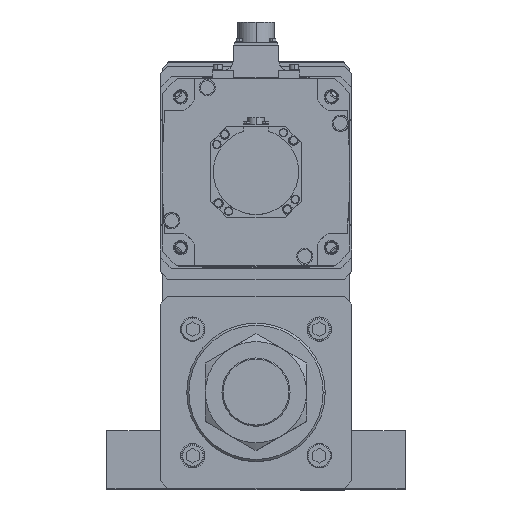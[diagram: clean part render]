
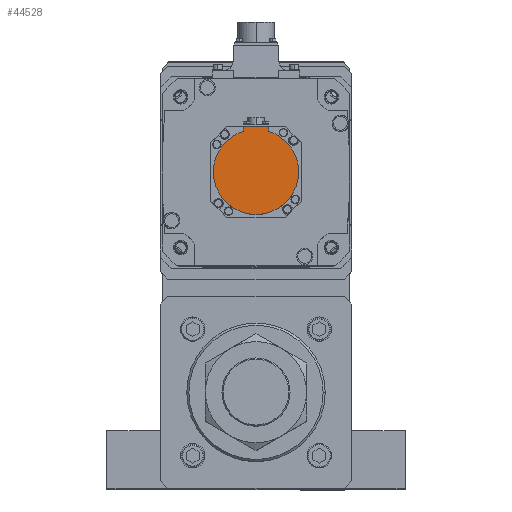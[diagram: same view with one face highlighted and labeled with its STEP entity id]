
A CAD part, top view. The second image highlights one B-rep face of the part: STEP entity #44528.
In plain terms, the highlighted planar face has unit normal (0, 0, 1) as drawn and (0, 0, -1) by its records, which use the part's own axes.
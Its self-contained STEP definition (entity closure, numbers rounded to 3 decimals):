
#655 = DIRECTION ( 'NONE',  ( 0., 0., 1. ) ) ;
#4204 = CARTESIAN_POINT ( 'NONE',  ( 12., -42.5, -178.5 ) ) ;
#4893 = ORIENTED_EDGE ( 'NONE', *, *, #47971, .F. ) ;
#4947 = VECTOR ( 'NONE', #6033, 1000. ) ;
#4972 = VERTEX_POINT ( 'NONE', #33147 ) ;
#5723 = DIRECTION ( 'NONE',  ( 0., 1., 0. ) ) ;
#6033 = DIRECTION ( 'NONE',  ( 0., 1., 0. ) ) ;
#6517 = EDGE_CURVE ( 'NONE', #28166, #18236, #46826, .T. ) ;
#8344 = VECTOR ( 'NONE', #5723, 1000. ) ;
#9969 = CARTESIAN_POINT ( 'NONE',  ( 12., -1.249, -178.5 ) ) ;
#10676 = ORIENTED_EDGE ( 'NONE', *, *, #48595, .F. ) ;
#11017 = VERTEX_POINT ( 'NONE', #23575 ) ;
#11557 = CARTESIAN_POINT ( 'NONE',  ( 0., 0., -178.5 ) ) ;
#14142 = CARTESIAN_POINT ( 'NONE',  ( -12., -40.329, -178.5 ) ) ;
#15841 = LINE ( 'NONE', #9969, #4947 ) ;
#16242 = DIRECTION ( 'NONE',  ( -1., 0., 0. ) ) ;
#18236 = VERTEX_POINT ( 'NONE', #34334 ) ;
#23575 = CARTESIAN_POINT ( 'NONE',  ( 12., -38.158, -178.5 ) ) ;
#23590 = DIRECTION ( 'NONE',  ( 0., 0., 1. ) ) ;
#24266 = EDGE_LOOP ( 'NONE', ( #31500, #35835, #10676, #38373, #4893, #36140 ) ) ;
#24853 = CIRCLE ( 'NONE', #42351, 40. ) ;
#26048 = CIRCLE ( 'NONE', #51441, 40. ) ;
#27340 = EDGE_CURVE ( 'NONE', #34917, #28166, #51073, .T. ) ;
#28166 = VERTEX_POINT ( 'NONE', #45378 ) ;
#29533 = CARTESIAN_POINT ( 'NONE',  ( 0., 0., -178.5 ) ) ;
#31500 = ORIENTED_EDGE ( 'NONE', *, *, #6517, .T. ) ;
#32561 = DIRECTION ( 'NONE',  ( 1., 0., 0. ) ) ;
#33147 = CARTESIAN_POINT ( 'NONE',  ( 40., 0., -178.5 ) ) ;
#33731 = VERTEX_POINT ( 'NONE', #51802 ) ;
#34334 = CARTESIAN_POINT ( 'NONE',  ( -12., -38.158, -178.5 ) ) ;
#34527 = EDGE_CURVE ( 'NONE', #11017, #4972, #24853, .T. ) ;
#34796 = AXIS2_PLACEMENT_3D ( 'NONE', #42028, #49887, #37726 ) ;
#34917 = VERTEX_POINT ( 'NONE', #4204 ) ;
#35162 = EDGE_CURVE ( 'NONE', #33731, #18236, #41483, .T. ) ;
#35835 = ORIENTED_EDGE ( 'NONE', *, *, #35162, .F. ) ;
#36140 = ORIENTED_EDGE ( 'NONE', *, *, #27340, .T. ) ;
#36547 = AXIS2_PLACEMENT_3D ( 'NONE', #37415, #48886, #32561 ) ;
#36654 = DIRECTION ( 'NONE',  ( 1., 0., 0. ) ) ;
#37415 = CARTESIAN_POINT ( 'NONE',  ( 0., -1.249, -178.5 ) ) ;
#37726 = DIRECTION ( 'NONE',  ( 1., 0., 0. ) ) ;
#38373 = ORIENTED_EDGE ( 'NONE', *, *, #34527, .F. ) ;
#40826 = CARTESIAN_POINT ( 'NONE',  ( 0., -42.5, -178.5 ) ) ;
#41483 = CIRCLE ( 'NONE', #34796, 40. ) ;
#42028 = CARTESIAN_POINT ( 'NONE',  ( 0., 0., -178.5 ) ) ;
#42351 = AXIS2_PLACEMENT_3D ( 'NONE', #29533, #655, #49957 ) ;
#43984 = VECTOR ( 'NONE', #16242, 1000. ) ;
#44528 = ADVANCED_FACE ( 'NONE', ( #50185 ), #45305, .F. ) ;
#45305 = PLANE ( 'NONE',  #36547 ) ;
#45378 = CARTESIAN_POINT ( 'NONE',  ( -12., -42.5, -178.5 ) ) ;
#46826 = LINE ( 'NONE', #14142, #8344 ) ;
#47971 = EDGE_CURVE ( 'NONE', #34917, #11017, #15841, .T. ) ;
#48595 = EDGE_CURVE ( 'NONE', #4972, #33731, #26048, .T. ) ;
#48886 = DIRECTION ( 'NONE',  ( 0., 0., 1. ) ) ;
#49887 = DIRECTION ( 'NONE',  ( 0., 0., 1. ) ) ;
#49957 = DIRECTION ( 'NONE',  ( 1., 0., 0. ) ) ;
#50185 = FACE_OUTER_BOUND ( 'NONE', #24266, .T. ) ;
#51073 = LINE ( 'NONE', #40826, #43984 ) ;
#51441 = AXIS2_PLACEMENT_3D ( 'NONE', #11557, #23590, #36654 ) ;
#51802 = CARTESIAN_POINT ( 'NONE',  ( -40., 0., -178.5 ) ) ;
